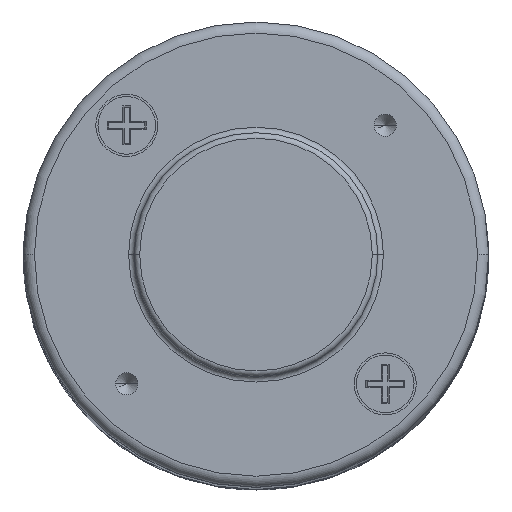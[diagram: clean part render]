
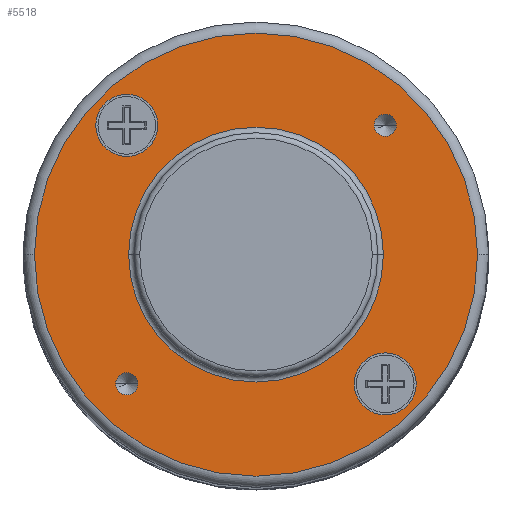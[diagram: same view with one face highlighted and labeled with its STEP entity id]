
A CAD part, top view. The second image highlights one B-rep face of the part: STEP entity #5518.
In plain terms, the highlighted planar face has unit normal (0, 0, 1).
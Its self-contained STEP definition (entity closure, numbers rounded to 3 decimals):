
#43 = DIRECTION ( 'NONE',  ( 1., 0., 0. ) ) ;
#113 = CIRCLE ( 'NONE', #974, 1. ) ;
#231 = AXIS2_PLACEMENT_3D ( 'NONE', #2060, #6192, #4125 ) ;
#273 = DIRECTION ( 'NONE',  ( 0., 0., 1. ) ) ;
#297 = EDGE_CURVE ( 'NONE', #5486, #3631, #2900, .T. ) ;
#315 = EDGE_CURVE ( 'NONE', #5870, #1922, #5027, .T. ) ;
#403 = ORIENTED_EDGE ( 'NONE', *, *, #1936, .F. ) ;
#420 = FACE_BOUND ( 'NONE', #3987, .T. ) ;
#501 = AXIS2_PLACEMENT_3D ( 'NONE', #4889, #273, #1828 ) ;
#502 = DIRECTION ( 'NONE',  ( 0., 0., 1. ) ) ;
#607 = EDGE_CURVE ( 'NONE', #3631, #5486, #3366, .T. ) ;
#615 = ORIENTED_EDGE ( 'NONE', *, *, #2540, .F. ) ;
#625 = ORIENTED_EDGE ( 'NONE', *, *, #4184, .F. ) ;
#635 = CARTESIAN_POINT ( 'NONE',  ( 11.5, 0., 5.1 ) ) ;
#670 = VERTEX_POINT ( 'NONE', #2722 ) ;
#766 = DIRECTION ( 'NONE',  ( 0., 0., 1. ) ) ;
#775 = CIRCLE ( 'NONE', #4650, 11.5 ) ;
#797 = VERTEX_POINT ( 'NONE', #5889 ) ;
#835 = VERTEX_POINT ( 'NONE', #2829 ) ;
#880 = DIRECTION ( 'NONE',  ( 1., 0., 0. ) ) ;
#895 = CARTESIAN_POINT ( 'NONE',  ( 10.667, 11.667, 5.1 ) ) ;
#974 = AXIS2_PLACEMENT_3D ( 'NONE', #4661, #4723, #43 ) ;
#1028 = EDGE_CURVE ( 'NONE', #6053, #6107, #775, .T. ) ;
#1029 = EDGE_LOOP ( 'NONE', ( #4969, #1330 ) ) ;
#1069 = CARTESIAN_POINT ( 'NONE',  ( 11.667, -11.667, 5.1 ) ) ;
#1235 = DIRECTION ( 'NONE',  ( 1., 0., 0. ) ) ;
#1262 = CARTESIAN_POINT ( 'NONE',  ( 14.467, -11.667, 5.1 ) ) ;
#1269 = CARTESIAN_POINT ( 'NONE',  ( 0., 0., 5.1 ) ) ;
#1303 = DIRECTION ( 'NONE',  ( 0., 0., 1. ) ) ;
#1308 = CARTESIAN_POINT ( 'NONE',  ( -10.667, -11.667, 5.1 ) ) ;
#1326 = EDGE_LOOP ( 'NONE', ( #403, #615 ) ) ;
#1330 = ORIENTED_EDGE ( 'NONE', *, *, #5484, .T. ) ;
#1495 = DIRECTION ( 'NONE',  ( 1., 0., 0. ) ) ;
#1565 = CARTESIAN_POINT ( 'NONE',  ( -14.467, 11.667, 5.1 ) ) ;
#1828 = DIRECTION ( 'NONE',  ( 1., 0., 0. ) ) ;
#1849 = CIRCLE ( 'NONE', #4421, 1. ) ;
#1922 = VERTEX_POINT ( 'NONE', #1565 ) ;
#1936 = EDGE_CURVE ( 'NONE', #835, #5267, #113, .T. ) ;
#2043 = DIRECTION ( 'NONE',  ( 1., 0., 0. ) ) ;
#2060 = CARTESIAN_POINT ( 'NONE',  ( 0., 0., 5.1 ) ) ;
#2075 = DIRECTION ( 'NONE',  ( 0., 0., 1. ) ) ;
#2092 = AXIS2_PLACEMENT_3D ( 'NONE', #5291, #5431, #4375 ) ;
#2273 = CIRCLE ( 'NONE', #5902, 11.5 ) ;
#2322 = EDGE_CURVE ( 'NONE', #1922, #5870, #4435, .T. ) ;
#2497 = PLANE ( 'NONE',  #4975 ) ;
#2508 = ORIENTED_EDGE ( 'NONE', *, *, #1028, .T. ) ;
#2540 = EDGE_CURVE ( 'NONE', #5267, #835, #1849, .T. ) ;
#2551 = DIRECTION ( 'NONE',  ( 0., 0., -1. ) ) ;
#2707 = DIRECTION ( 'NONE',  ( 0., 0., 1. ) ) ;
#2722 = CARTESIAN_POINT ( 'NONE',  ( -20., 0., 5.1 ) ) ;
#2785 = CARTESIAN_POINT ( 'NONE',  ( -11.5, 0., 5.1 ) ) ;
#2829 = CARTESIAN_POINT ( 'NONE',  ( 12.667, 11.667, 5.1 ) ) ;
#2852 = DIRECTION ( 'NONE',  ( 1., 0., 0. ) ) ;
#2900 = CIRCLE ( 'NONE', #501, 1. ) ;
#3027 = DIRECTION ( 'NONE',  ( 1., 0., 0. ) ) ;
#3043 = ORIENTED_EDGE ( 'NONE', *, *, #297, .F. ) ;
#3142 = DIRECTION ( 'NONE',  ( -1., 0., 0. ) ) ;
#3143 = CIRCLE ( 'NONE', #6133, 2.8 ) ;
#3198 = CARTESIAN_POINT ( 'NONE',  ( -12.667, -11.667, 5.1 ) ) ;
#3338 = FACE_BOUND ( 'NONE', #6227, .T. ) ;
#3366 = CIRCLE ( 'NONE', #6265, 1. ) ;
#3375 = FACE_BOUND ( 'NONE', #6490, .T. ) ;
#3387 = AXIS2_PLACEMENT_3D ( 'NONE', #4140, #2075, #6271 ) ;
#3500 = FACE_BOUND ( 'NONE', #1326, .T. ) ;
#3599 = CIRCLE ( 'NONE', #3387, 2.8 ) ;
#3631 = VERTEX_POINT ( 'NONE', #3198 ) ;
#3735 = VERTEX_POINT ( 'NONE', #1262 ) ;
#3832 = CARTESIAN_POINT ( 'NONE',  ( 0., 0., 5.1 ) ) ;
#3987 = EDGE_LOOP ( 'NONE', ( #4641, #625 ) ) ;
#4010 = CARTESIAN_POINT ( 'NONE',  ( -11.667, 11.667, 5.1 ) ) ;
#4100 = CIRCLE ( 'NONE', #231, 20. ) ;
#4125 = DIRECTION ( 'NONE',  ( 1., 0., 0. ) ) ;
#4140 = CARTESIAN_POINT ( 'NONE',  ( 11.667, -11.667, 5.1 ) ) ;
#4143 = CARTESIAN_POINT ( 'NONE',  ( 0., 0., 5.1 ) ) ;
#4184 = EDGE_CURVE ( 'NONE', #797, #3735, #3599, .T. ) ;
#4375 = DIRECTION ( 'NONE',  ( 1., 0., 0. ) ) ;
#4397 = DIRECTION ( 'NONE',  ( 0., 0., 1. ) ) ;
#4421 = AXIS2_PLACEMENT_3D ( 'NONE', #4555, #5493, #880 ) ;
#4435 = CIRCLE ( 'NONE', #2092, 2.8 ) ;
#4520 = EDGE_CURVE ( 'NONE', #3735, #797, #3143, .T. ) ;
#4532 = ORIENTED_EDGE ( 'NONE', *, *, #607, .F. ) ;
#4555 = CARTESIAN_POINT ( 'NONE',  ( 11.667, 11.667, 5.1 ) ) ;
#4563 = DIRECTION ( 'NONE',  ( 1., 0., 0. ) ) ;
#4641 = ORIENTED_EDGE ( 'NONE', *, *, #4520, .F. ) ;
#4650 = AXIS2_PLACEMENT_3D ( 'NONE', #5565, #2551, #3027 ) ;
#4661 = CARTESIAN_POINT ( 'NONE',  ( 11.667, 11.667, 5.1 ) ) ;
#4697 = AXIS2_PLACEMENT_3D ( 'NONE', #4010, #502, #2043 ) ;
#4723 = DIRECTION ( 'NONE',  ( 0., 0., 1. ) ) ;
#4739 = ORIENTED_EDGE ( 'NONE', *, *, #315, .F. ) ;
#4889 = CARTESIAN_POINT ( 'NONE',  ( -11.667, -11.667, 5.1 ) ) ;
#4892 = VERTEX_POINT ( 'NONE', #6468 ) ;
#4969 = ORIENTED_EDGE ( 'NONE', *, *, #5371, .T. ) ;
#4975 = AXIS2_PLACEMENT_3D ( 'NONE', #1269, #766, #2852 ) ;
#5027 = CIRCLE ( 'NONE', #4697, 2.8 ) ;
#5043 = FACE_BOUND ( 'NONE', #5550, .T. ) ;
#5165 = CARTESIAN_POINT ( 'NONE',  ( -8.867, 11.667, 5.1 ) ) ;
#5267 = VERTEX_POINT ( 'NONE', #895 ) ;
#5291 = CARTESIAN_POINT ( 'NONE',  ( -11.667, 11.667, 5.1 ) ) ;
#5371 = EDGE_CURVE ( 'NONE', #4892, #670, #4100, .T. ) ;
#5431 = DIRECTION ( 'NONE',  ( 0., 0., 1. ) ) ;
#5484 = EDGE_CURVE ( 'NONE', #670, #4892, #5817, .T. ) ;
#5486 = VERTEX_POINT ( 'NONE', #1308 ) ;
#5493 = DIRECTION ( 'NONE',  ( 0., 0., 1. ) ) ;
#5518 = ADVANCED_FACE ( 'NONE', ( #3375, #3500, #420, #3338, #5545, #5043 ), #2497, .T. ) ;
#5545 = FACE_OUTER_BOUND ( 'NONE', #1029, .T. ) ;
#5550 = EDGE_LOOP ( 'NONE', ( #2508, #5841 ) ) ;
#5565 = CARTESIAN_POINT ( 'NONE',  ( 0., 0., 5.1 ) ) ;
#5817 = CIRCLE ( 'NONE', #6153, 20. ) ;
#5841 = ORIENTED_EDGE ( 'NONE', *, *, #6269, .T. ) ;
#5870 = VERTEX_POINT ( 'NONE', #5165 ) ;
#5889 = CARTESIAN_POINT ( 'NONE',  ( 8.867, -11.667, 5.1 ) ) ;
#5902 = AXIS2_PLACEMENT_3D ( 'NONE', #4143, #6177, #4563 ) ;
#5945 = CARTESIAN_POINT ( 'NONE',  ( -11.667, -11.667, 5.1 ) ) ;
#5952 = ORIENTED_EDGE ( 'NONE', *, *, #2322, .F. ) ;
#6053 = VERTEX_POINT ( 'NONE', #635 ) ;
#6107 = VERTEX_POINT ( 'NONE', #2785 ) ;
#6133 = AXIS2_PLACEMENT_3D ( 'NONE', #1069, #2707, #3142 ) ;
#6153 = AXIS2_PLACEMENT_3D ( 'NONE', #3832, #4397, #1235 ) ;
#6177 = DIRECTION ( 'NONE',  ( 0., 0., -1. ) ) ;
#6192 = DIRECTION ( 'NONE',  ( 0., 0., 1. ) ) ;
#6227 = EDGE_LOOP ( 'NONE', ( #4739, #5952 ) ) ;
#6265 = AXIS2_PLACEMENT_3D ( 'NONE', #5945, #1303, #1495 ) ;
#6269 = EDGE_CURVE ( 'NONE', #6107, #6053, #2273, .T. ) ;
#6271 = DIRECTION ( 'NONE',  ( -1., 0., 0. ) ) ;
#6468 = CARTESIAN_POINT ( 'NONE',  ( 20., 0., 5.1 ) ) ;
#6490 = EDGE_LOOP ( 'NONE', ( #3043, #4532 ) ) ;
